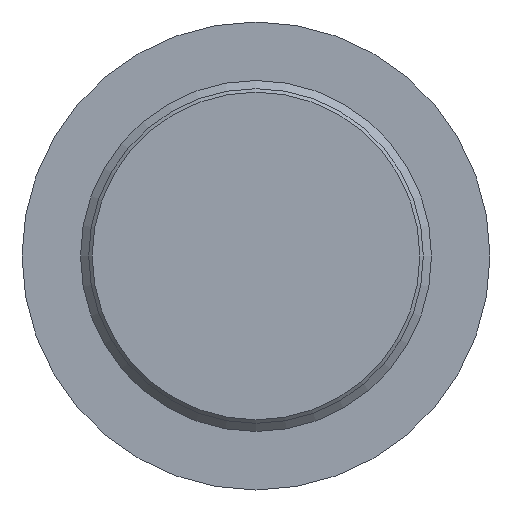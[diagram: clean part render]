
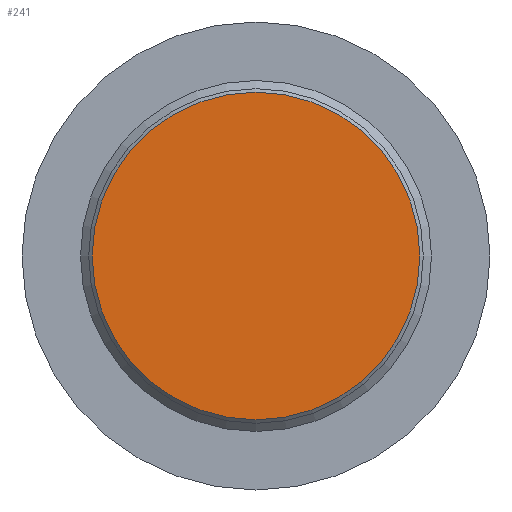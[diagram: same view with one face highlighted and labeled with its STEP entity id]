
A CAD part, front view. The second image highlights one B-rep face of the part: STEP entity #241.
In plain terms, the highlighted planar face has unit normal (0, -1, 0).
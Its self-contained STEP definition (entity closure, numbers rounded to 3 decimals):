
#26=PLANE('',#279);
#34=FACE_OUTER_BOUND('',#49,.T.);
#49=EDGE_LOOP('',(#175));
#86=CIRCLE('',#278,7.);
#112=VERTEX_POINT('',#414);
#139=EDGE_CURVE('',#112,#112,#86,.T.);
#175=ORIENTED_EDGE('',*,*,#139,.F.);
#241=ADVANCED_FACE('',(#34),#26,.T.);
#278=AXIS2_PLACEMENT_3D('',#416,#325,#326);
#279=AXIS2_PLACEMENT_3D('',#417,#327,#328);
#325=DIRECTION('center_axis',(0.,1.,0.));
#326=DIRECTION('ref_axis',(0.,0.,-1.));
#327=DIRECTION('center_axis',(0.,-1.,0.));
#328=DIRECTION('ref_axis',(0.,0.,-1.));
#414=CARTESIAN_POINT('',(0.,-1300.,7.));
#416=CARTESIAN_POINT('Origin',(0.,-1300.,0.));
#417=CARTESIAN_POINT('Origin',(0.,-1300.,7.5));
